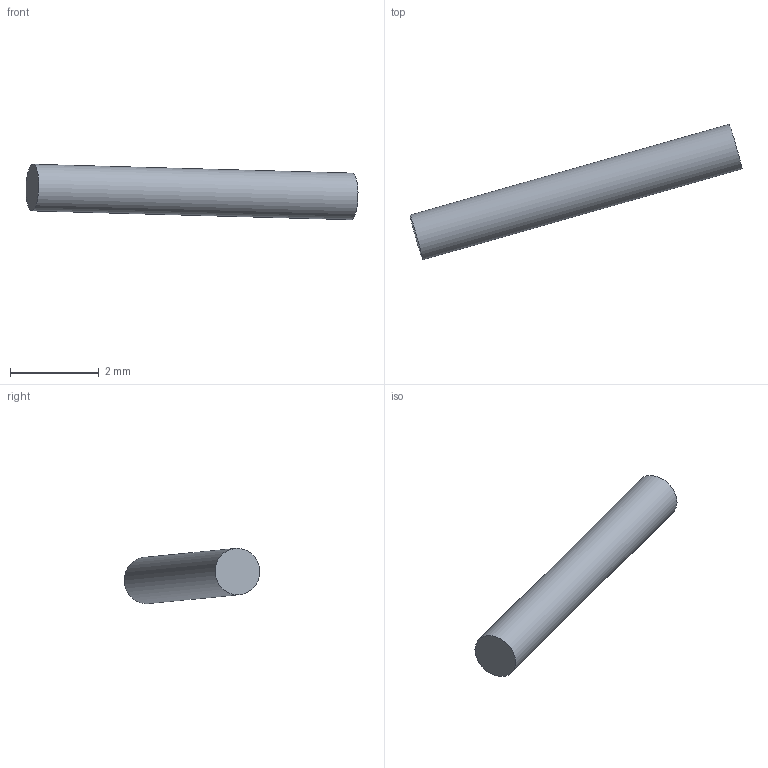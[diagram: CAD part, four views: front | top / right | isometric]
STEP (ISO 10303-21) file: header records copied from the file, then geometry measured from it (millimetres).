
FILE_DESCRIPTION(('Open CASCADE Model'),'2;1');
FILE_NAME('Open CASCADE Shape Model','2026-09-15T14:44:54',('Author'),( 'Open CASCADE'),'Open CASCADE STEP processor 7.7','Open CASCADE 7.7' ,'Unknown');
FILE_SCHEMA(('AUTOMOTIVE_DESIGN { 1 0 10303 214 1 1 1 1 }'));
Length unit declared in the file: millimetre
Products named in the file (1): COMPOUND
Bounding box: 7.49 x 3.06 x 1.25 mm (x, y, z)
Volume: 6.5 mm3; surface area: 26.4 mm2
Topology: 1 solids, 1 shells, 3 faces, 3 edges, 2 vertices
Faces by surface type: plane 2, cylinder 1
Full cylindrical faces by diameter (mm): 1.05 x1
Entity records: 107 total; most frequent: DIRECTION 18, CARTESIAN_POINT 16, AXIS2_PLACEMENT_3D 6, ORIENTED_EDGE 6, PCURVE 6, DEFINITIONAL_REPRESENTATION 6, LINE 4, VECTOR 4
